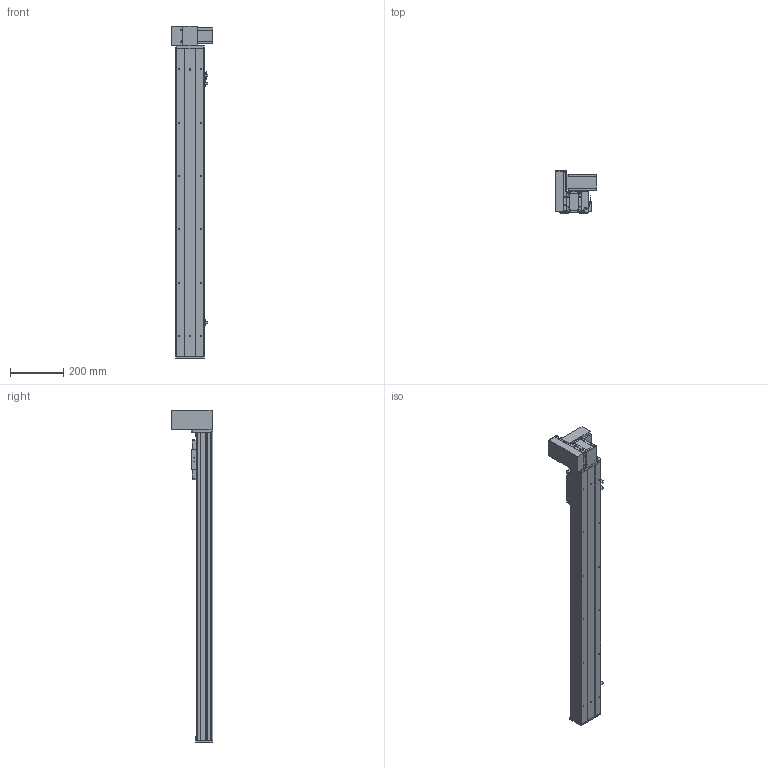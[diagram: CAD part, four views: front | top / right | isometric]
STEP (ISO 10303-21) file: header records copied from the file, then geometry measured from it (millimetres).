
FILE_DESCRIPTION (( 'STEP AP203' ), '1' );
FILE_NAME ('Y10CB-D90-S900-UL-P400W.STEP', '2020-02-16T07:17:03', ( '微软用户' ), ( '微软中国' ), 'SwSTEP 2.0', 'SolidWorks 2017', '' );
FILE_SCHEMA (( 'CONFIG_CONTROL_DESIGN' ));
Length unit declared in the file: millimetre
Products named in the file (18): Y10CB-D90-S900-UL-P400W; Y10C---詩湍揤啣; 0Cb-俋欶---; 10CB9-掛极; Y10B-々湍喘謫眊楊擘啣--; 10CB-耜裔; 0B-萇儂楊擘啣; Y135C-陔俋离換覜結え-; san松下电机400不带刹车----; Y100-135俋离換覜ん--; 0B-源倛裔啣; Y10B-耜蚾蟀諉啣----; 0B-埴倛裔啣; 00B-俋欶BM--; 10CB-詩湍-; Y10B--々湍喘謫眊--666; Y10CB- 掛极耜裔啣-毀---; 0CB-雄赽釱---
Assembly tree (21 placements, depth 2):
  Y10CB-D90-S900-UL-P400W
    0CB-雄赽釱---
    0Cb-俋欶---
    Y10B-々湍喘謫眊楊擘啣--
    0B-萇儂楊擘啣
    san松下电机400不带刹车----
    0B-源倛裔啣
    0B-埴倛裔啣
    10CB-詩湍-
    Y10CB- 掛极耜裔啣-毀---  x2
    Y10C---詩湍揤啣  x2
    10CB9-掛极
    10CB-耜裔
    Y135C-陔俋离換覜結え-
    Y100-135俋离換覜ん--  x3
    Y10B-耜蚾蟀諉啣----
    00B-俋欶BM--
    Y10B--々湍喘謫眊--666
Bounding box: 157 x 155.5 x 1246 mm (x, y, z)
Volume: 2961569.1 mm3; surface area: 1323406.8 mm2
Topology: 21 solids, 21 shells, 978 faces, 2603 edges, 1706 vertices
Faces by surface type: cylinder 479, plane 475, cone 24
Entity records: 30412 total; most frequent: CARTESIAN_POINT 5321, DIRECTION 4930, ORIENTED_EDGE 4676, EDGE_CURVE 2338, AXIS2_PLACEMENT_3D 1765, VERTEX_POINT 1532, VECTOR 1400, LINE 1400
